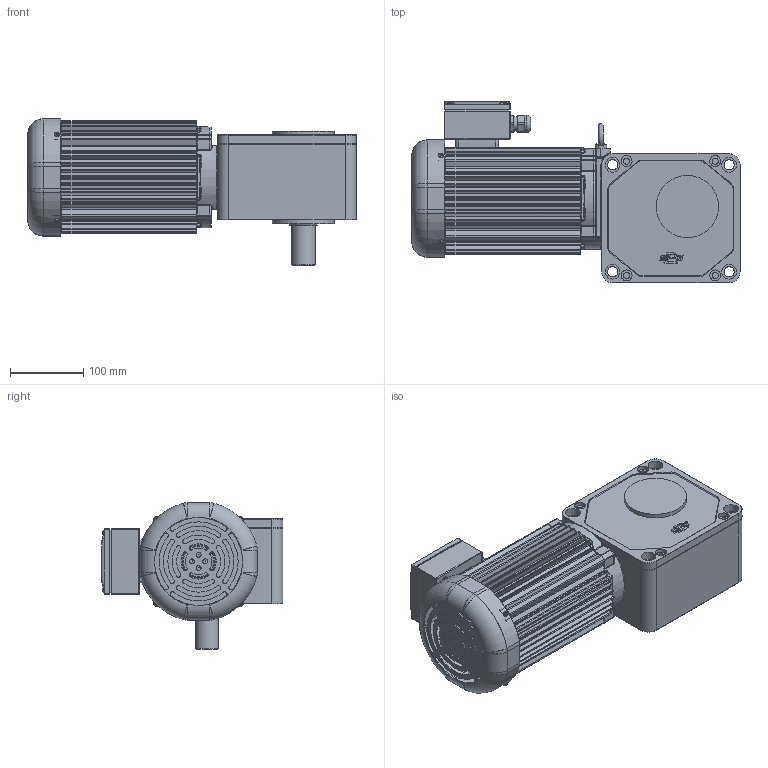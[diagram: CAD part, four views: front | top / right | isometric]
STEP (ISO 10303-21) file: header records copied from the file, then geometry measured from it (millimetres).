
FILE_DESCRIPTION(/* description */ (''),/* implementation_level */ '2;1');
FILE_NAME(/* name */ 'Z:\동력 3D 파일\PCS32R-(5~60)-PA(B)075[ ]T.stp',/* time_stamp */ '2022-05-02T14:34:00+09:00',/* author */ ('jaebok'),/* organization */ (''),/* preprocessor_version */ 'ST-DEVELOPER v18.1',/* originating_system */ 'Autodesk Inventor 2022',/* authorisation */ '');
FILE_SCHEMA (('AUTOMOTIVE_DESIGN { 1 0 10303 214 3 1 1 }'));
Products named in the file (1): 부품4
Bounding box: 448 x 248 x 200.2 mm (x, y, z)
Volume: 2853856.5 mm3; surface area: 769199.3 mm2
Topology: 1 solids, 26 shells, 2112 faces, 5391 edges, 3354 vertices
Faces by surface type: plane 868, cylinder 765, bspline 202, torus 172, cone 57, sphere 48
Full cylindrical faces by diameter (mm): 3.25 x1, 3.5 x4, 3.6 x4, 4 x22, 5 x13, 6 x4, 6.647 x2, 7 x13, 8 x5, 8.5 x4, 10 x1, 12.5 x1, 14 x4, 15 x5, 18 x1, 20 x14, 20.6 x1, 21 x1, 23.6 x1, 25 x1, 30 x1, 32 x1, 36 x1, 40 x3, 44 x1, 54.5 x1, 68 x1, 72 x2, 85 x2, 125 x1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
Entity records: 70599 total; most frequent: CARTESIAN_POINT 19468, DIRECTION 10898, ORIENTED_EDGE 10674, EDGE_CURVE 5337, AXIS2_PLACEMENT_3D 4207, VERTEX_POINT 3354, LINE 2484, VECTOR 2484
